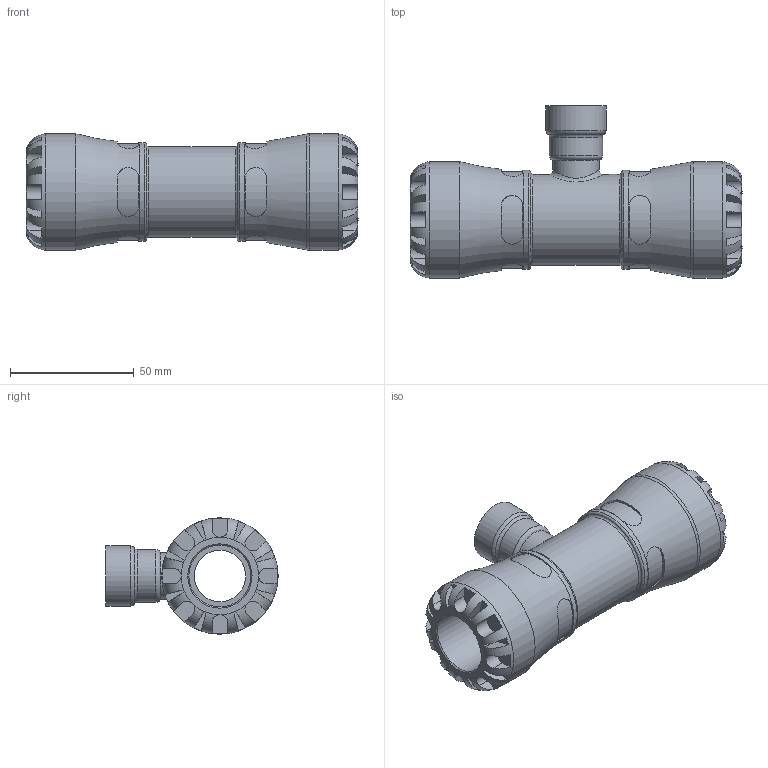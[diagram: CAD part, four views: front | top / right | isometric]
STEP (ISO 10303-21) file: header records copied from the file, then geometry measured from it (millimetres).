
FILE_DESCRIPTION(/* description */ ('PLASSON TEE WITH THREADED FEMALE OFFTAKE 25X1/2" SERIES 1'),/* implementation_level */ '2;1');
FILE_NAME(/* name */ 'C:\Dropbox\KIMPROJECTS-Inventor\99-16-3568-Processing\1014\101400025005_191400025005.ipt.stp',/* time_stamp */ '2017-01-30T09:06:17+02:00',/* author */ ('KIM'),/* organization */ (''),/* preprocessor_version */ 'ST-DEVELOPER v15.6',/* originating_system */ 'Autodesk Inventor 2015',/* authorisation */ '');
FILE_SCHEMA (('AUTOMOTIVE_DESIGN { 1 0 10303 214 3 1 1 }'));
Length unit declared in the file: millimetre
Products named in the file (1): 101400025005_191400025005
Bounding box: 134 x 69.5 x 47 mm (x, y, z)
Volume: 121466.9 mm3; surface area: 36107.7 mm2
Topology: 1 solids, 1 shells, 202 faces, 510 edges, 319 vertices
Faces by surface type: plane 118, cylinder 69, torus 12, cone 2, bspline 1
Full cylindrical faces by diameter (mm): 15.836 x1, 18.631 x2, 20.833 x1, 21.426 x1, 24.22 x1, 25 x2, 36.66 x1, 39.95 x2, 47 x2
Entity records: 7782 total; most frequent: CARTESIAN_POINT 3038, ORIENTED_EDGE 932, DIRECTION 914, EDGE_CURVE 466, AXIS2_PLACEMENT_3D 377, VERTEX_POINT 305, EDGE_LOOP 245, STYLED_ITEM 203
